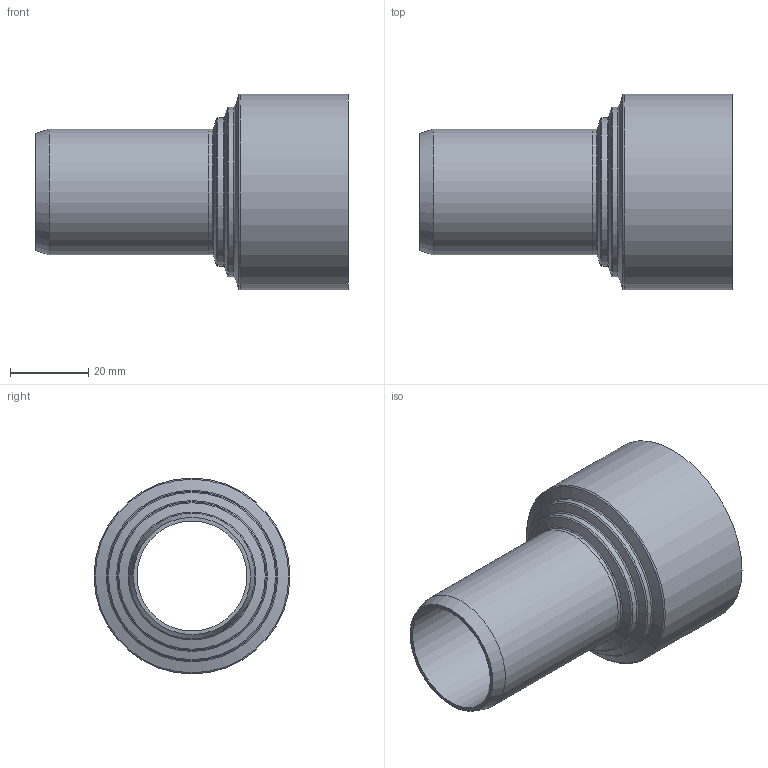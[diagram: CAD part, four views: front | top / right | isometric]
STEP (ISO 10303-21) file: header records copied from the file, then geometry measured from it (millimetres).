
FILE_DESCRIPTION(/* description */ (''),/* implementation_level */ '2;1');
FILE_NAME(/* name */ 'Z:\Geberit\Export\NewStep\390080.stp',/* time_stamp */ '2014-04-02T08:08:25+02:00',/* author */ ('nelson'),/* organization */ (''),/* preprocessor_version */ 'ST-DEVELOPER v15.2',/* originating_system */ 'Autodesk Inventor 2014',/* authorisation */ '');
FILE_SCHEMA (('AUTOMOTIVE_DESIGN { 1 0 10303 214 3 1 1 }'));
Length unit declared in the file: millimetre
Products named in the file (3): 861629Muffe; 861629; 390080
Bounding box: 80.15 x 50.15 x 50.15 mm (x, y, z)
Volume: 20562.9 mm3; surface area: 20799.5 mm2
Topology: 2 solids, 2 shells, 24 faces, 44 edges, 24 vertices
Faces by surface type: cylinder 8, torus 7, cone 5, plane 4
Full cylindrical faces by diameter (mm): 28.15 x2, 32.15 x2, 38.062 x1, 43.358 x1, 46.15 x1, 50.15 x1
Entity records: 576 total; most frequent: DIRECTION 106, CARTESIAN_POINT 77, AXIS2_PLACEMENT_3D 53, EDGE_LOOP 48, ORIENTED_EDGE 48, FACE_BOUND 27, STYLED_ITEM 26, CIRCLE 24
